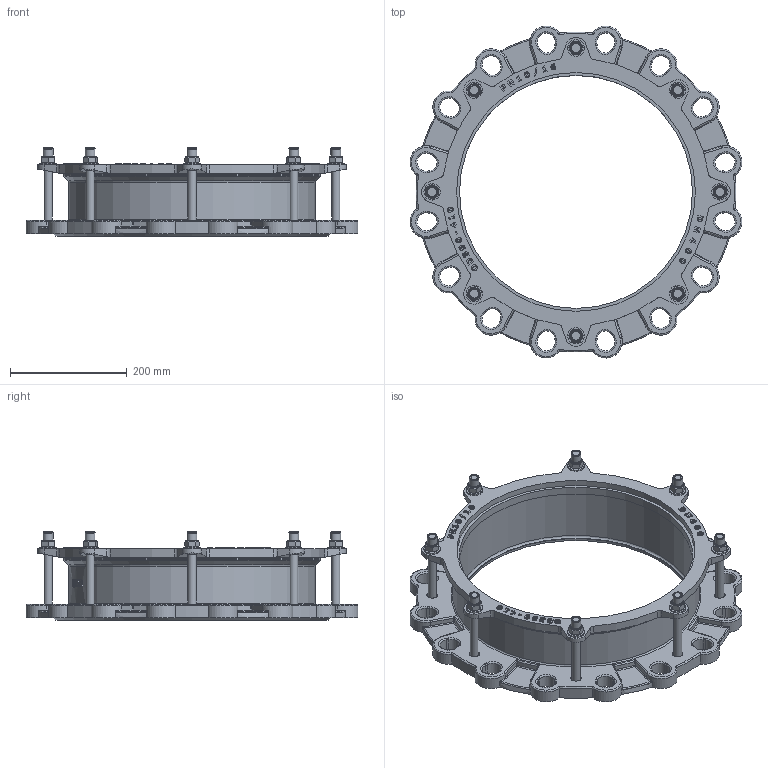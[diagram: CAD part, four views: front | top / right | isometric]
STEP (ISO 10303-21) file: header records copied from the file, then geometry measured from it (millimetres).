
FILE_DESCRIPTION(('STEP AP203'), '1');
FILE_NAME('Ôëàíöåâûé àäàïòåð', '', ('UNSPECIFIED'), ('UNSPECIFIED'), 'C3D Converter', 'C3D Toolkit', '');
FILE_SCHEMA(('CONFIG_CONTROL_DESIGN'));
Length unit declared in the file: millimetre
Assembly tree (35 placements, depth 2):
  (unnamed)
    (unnamed)
    (unnamed)  x8
    (unnamed)  x8
    (unnamed)  x8
    (unnamed)  x8
    (unnamed)
    (unnamed)
Bounding box: 569.89 x 569.89 x 151.4 mm (x, y, z)
Volume: 3933847.4 mm3; surface area: 892049.4 mm2
Topology: 35 solids, 35 shells, 1563 faces, 3854 edges, 2330 vertices
Faces by surface type: plane 492, cylinder 419, extrusion 332, torus 148, bspline 64, cone 60, sphere 48
Full cylindrical faces by diameter (mm): 13.478 x1, 14 x24, 15 x8, 16 x16, 16.8 x8, 19.6 x8, 28 x8, 400 x2, 410 x2, 417 x1, 424 x2, 441.5 x1, 445 x1
Entity records: 56244 total; most frequent: CARTESIAN_POINT 22015, ORIENTED_EDGE 6258, DIRECTION 5341, EDGE_CURVE 3129, VERTEX_POINT 1966, AXIS2_PLACEMENT_3D 1834, VECTOR 1673, EDGE_LOOP 1477
